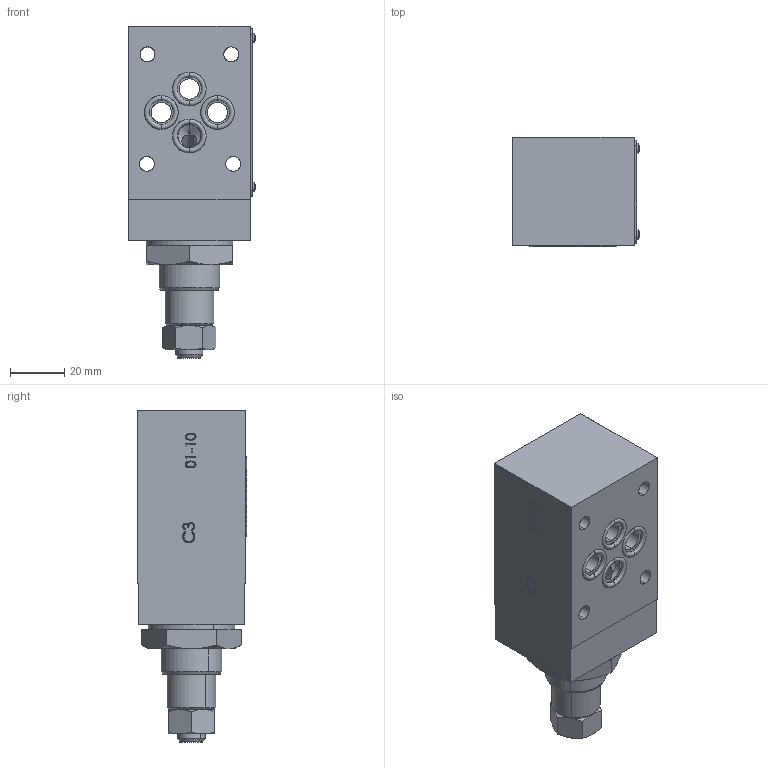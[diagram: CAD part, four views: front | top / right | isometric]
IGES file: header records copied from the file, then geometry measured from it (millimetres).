
Start section: SolidWorks IGES file using analytic representation for surfaces
Global section: file name: C:\Users\user\Desktop\FT358-5-B-03.IGS; native system: SolidWorks 2014; preprocessor: SolidWorks 2014; author: user; date: 140618.083417; units: millimetre
Bounding box: 46.96 x 40.38 x 122.8 mm (x, y, z)
Surface area: 49802.7 mm2 (no closed solid volume)
Topology: 0 solids, 0 shells, 1778 faces, 21684 edges, 21670 vertices
Faces by surface type: bspline 1386, revolution 392
